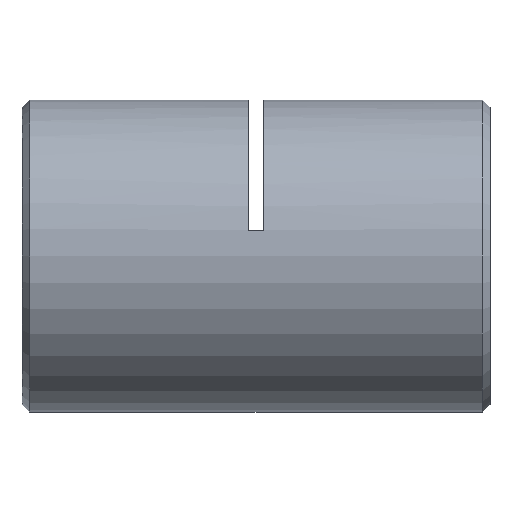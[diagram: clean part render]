
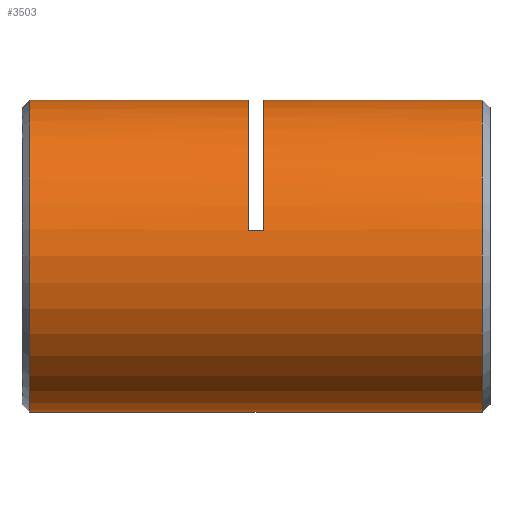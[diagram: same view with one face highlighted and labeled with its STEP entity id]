
A CAD part, left-side view. The second image highlights one B-rep face of the part: STEP entity #3503.
In plain terms, the highlighted cylindrical face has radius 10 mm (diameter 20 mm), a partial arc.
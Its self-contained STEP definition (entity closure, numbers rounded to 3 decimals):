
#71 = VERTEX_POINT ( 'NONE', #3321 ) ;
#366 = ORIENTED_EDGE ( 'NONE', *, *, #3478, .T. ) ;
#371 = CARTESIAN_POINT ( 'NONE',  ( 0., 29.75, 0. ) ) ;
#396 = ORIENTED_EDGE ( 'NONE', *, *, #1471, .T. ) ;
#455 = DIRECTION ( 'NONE',  ( 0., 1., 0. ) ) ;
#646 = CARTESIAN_POINT ( 'NONE',  ( 0., 15.75, 10. ) ) ;
#757 = AXIS2_PLACEMENT_3D ( 'NONE', #1889, #1386, #1376 ) ;
#765 = DIRECTION ( 'NONE',  ( 0., 1., 0. ) ) ;
#812 = CIRCLE ( 'NONE', #4130, 10. ) ;
#829 = CARTESIAN_POINT ( 'NONE',  ( 0., 14.75, 10. ) ) ;
#1065 = CARTESIAN_POINT ( 'NONE',  ( 0., 0., 10. ) ) ;
#1279 = CARTESIAN_POINT ( 'NONE',  ( 0., 29.75, 10. ) ) ;
#1368 = VERTEX_POINT ( 'NONE', #4215 ) ;
#1376 = DIRECTION ( 'NONE',  ( 0., 0., 1. ) ) ;
#1386 = DIRECTION ( 'NONE',  ( 0., 1., 0. ) ) ;
#1387 = LINE ( 'NONE', #1065, #3333 ) ;
#1448 = CARTESIAN_POINT ( 'NONE',  ( 0., 0.75, 0. ) ) ;
#1461 = CARTESIAN_POINT ( 'NONE',  ( -9.86, 15.75, 1.667 ) ) ;
#1471 = EDGE_CURVE ( 'NONE', #5580, #3657, #2473, .T. ) ;
#1520 = CARTESIAN_POINT ( 'NONE',  ( 0., 0.75, 10. ) ) ;
#1580 = CARTESIAN_POINT ( 'NONE',  ( 0., 15.75, 0. ) ) ;
#1634 = EDGE_CURVE ( 'NONE', #1368, #71, #3217, .T. ) ;
#1653 = ORIENTED_EDGE ( 'NONE', *, *, #4683, .T. ) ;
#1664 = DIRECTION ( 'NONE',  ( 0., -1., 0. ) ) ;
#1735 = DIRECTION ( 'NONE',  ( 0., 0., -1. ) ) ;
#1847 = AXIS2_PLACEMENT_3D ( 'NONE', #371, #1664, #1735 ) ;
#1880 = ORIENTED_EDGE ( 'NONE', *, *, #1634, .F. ) ;
#1887 = FACE_OUTER_BOUND ( 'NONE', #2469, .T. ) ;
#1889 = CARTESIAN_POINT ( 'NONE',  ( 0., 0., 0. ) ) ;
#2062 = DIRECTION ( 'NONE',  ( 0., 1., 0. ) ) ;
#2174 = VECTOR ( 'NONE', #455, 1000. ) ;
#2175 = DIRECTION ( 'NONE',  ( 0., 1., 0. ) ) ;
#2219 = LINE ( 'NONE', #3424, #2929 ) ;
#2335 = CIRCLE ( 'NONE', #1847, 10. ) ;
#2426 = VERTEX_POINT ( 'NONE', #1279 ) ;
#2469 = EDGE_LOOP ( 'NONE', ( #1880, #366, #1653, #4346, #396, #5312, #2989, #5616 ) ) ;
#2473 = LINE ( 'NONE', #5654, #4799 ) ;
#2564 = DIRECTION ( 'NONE',  ( 0., 1., 0. ) ) ;
#2633 = VERTEX_POINT ( 'NONE', #1520 ) ;
#2724 = CARTESIAN_POINT ( 'NONE',  ( 0., 0., -10. ) ) ;
#2929 = VECTOR ( 'NONE', #2564, 1000. ) ;
#2984 = DIRECTION ( 'NONE',  ( 0., 0., 1. ) ) ;
#2989 = ORIENTED_EDGE ( 'NONE', *, *, #4496, .T. ) ;
#3103 = CARTESIAN_POINT ( 'NONE',  ( -9.86, 14.75, 1.667 ) ) ;
#3122 = CIRCLE ( 'NONE', #4759, 10. ) ;
#3217 = LINE ( 'NONE', #2724, #2174 ) ;
#3321 = CARTESIAN_POINT ( 'NONE',  ( 0., 29.75, -10. ) ) ;
#3333 = VECTOR ( 'NONE', #765, 1000. ) ;
#3421 = AXIS2_PLACEMENT_3D ( 'NONE', #1448, #5358, #4076 ) ;
#3424 = CARTESIAN_POINT ( 'NONE',  ( 0., 0., 10. ) ) ;
#3478 = EDGE_CURVE ( 'NONE', #1368, #2633, #4158, .T. ) ;
#3503 = ADVANCED_FACE ( 'NONE', ( #1887 ), #3756, .T. ) ;
#3657 = VERTEX_POINT ( 'NONE', #1461 ) ;
#3756 = CYLINDRICAL_SURFACE ( 'NONE', #757, 10. ) ;
#3850 = CARTESIAN_POINT ( 'NONE',  ( 0., 14.75, 0. ) ) ;
#3883 = VERTEX_POINT ( 'NONE', #829 ) ;
#4076 = DIRECTION ( 'NONE',  ( 0., 0., 1. ) ) ;
#4130 = AXIS2_PLACEMENT_3D ( 'NONE', #1580, #2062, #2984 ) ;
#4158 = CIRCLE ( 'NONE', #3421, 10. ) ;
#4200 = VERTEX_POINT ( 'NONE', #646 ) ;
#4215 = CARTESIAN_POINT ( 'NONE',  ( 0., 0.75, -10. ) ) ;
#4346 = ORIENTED_EDGE ( 'NONE', *, *, #4518, .F. ) ;
#4496 = EDGE_CURVE ( 'NONE', #4200, #2426, #1387, .T. ) ;
#4518 = EDGE_CURVE ( 'NONE', #5580, #3883, #3122, .T. ) ;
#4631 = DIRECTION ( 'NONE',  ( 0., 1., 0. ) ) ;
#4651 = DIRECTION ( 'NONE',  ( 0., 0., 1. ) ) ;
#4683 = EDGE_CURVE ( 'NONE', #2633, #3883, #2219, .T. ) ;
#4759 = AXIS2_PLACEMENT_3D ( 'NONE', #3850, #4631, #4651 ) ;
#4799 = VECTOR ( 'NONE', #2175, 1000. ) ;
#4923 = EDGE_CURVE ( 'NONE', #3657, #4200, #812, .T. ) ;
#5085 = EDGE_CURVE ( 'NONE', #2426, #71, #2335, .T. ) ;
#5312 = ORIENTED_EDGE ( 'NONE', *, *, #4923, .T. ) ;
#5358 = DIRECTION ( 'NONE',  ( 0., 1., 0. ) ) ;
#5580 = VERTEX_POINT ( 'NONE', #3103 ) ;
#5616 = ORIENTED_EDGE ( 'NONE', *, *, #5085, .T. ) ;
#5654 = CARTESIAN_POINT ( 'NONE',  ( -9.86, 15.25, 1.667 ) ) ;
